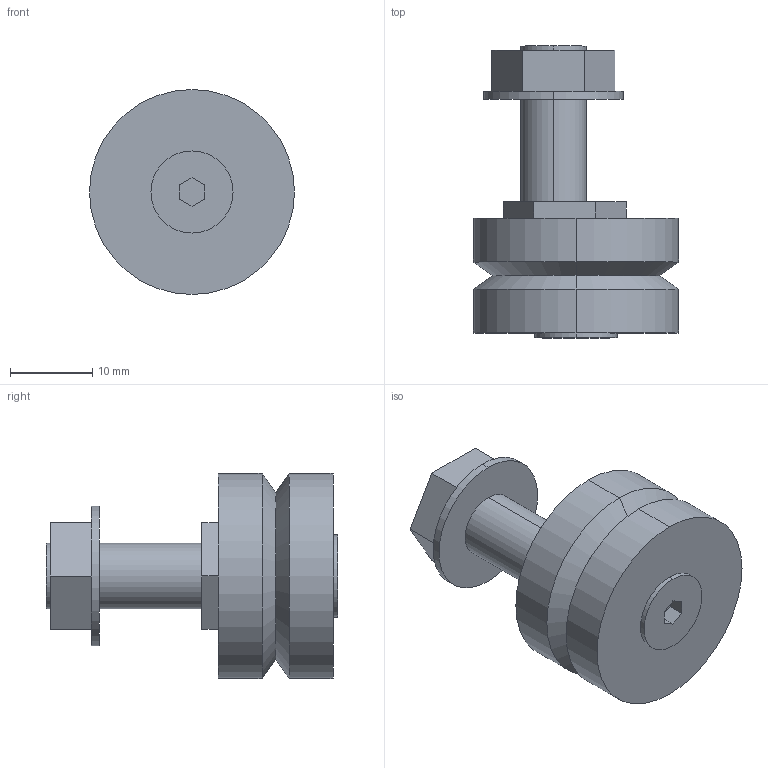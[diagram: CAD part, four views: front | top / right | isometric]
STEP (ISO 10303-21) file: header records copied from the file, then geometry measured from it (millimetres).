
FILE_DESCRIPTION(('STEP AP203'),'1');
FILE_NAME('rlj_25_de.stp','2020-10-14T16:23:43',('TraceParts'),('TraceParts S.A.'),'Spatial InterOp 3D',' ',' ');
FILE_SCHEMA(('CONFIG_CONTROL_DESIGN'));
Length unit declared in the file: millimetre
Products named in the file (1): 1
Bounding box: 25 x 35.6 x 25 mm (x, y, z)
Volume: 8497.1 mm3; surface area: 3351.4 mm2
Topology: 1 solids, 1 shells, 50 faces, 114 edges, 74 vertices
Faces by surface type: plane 34, cylinder 12, cone 4
Entity records: 1440 total; most frequent: DIRECTION 242, CARTESIAN_POINT 239, ORIENTED_EDGE 228, EDGE_CURVE 114, LINE 88, VECTOR 88, AXIS2_PLACEMENT_3D 77, VERTEX_POINT 74
